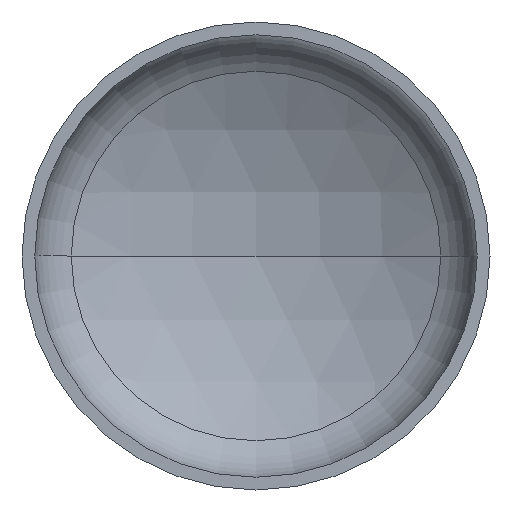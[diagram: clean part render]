
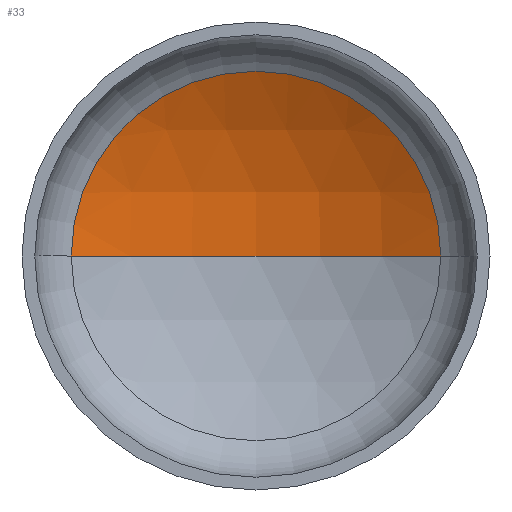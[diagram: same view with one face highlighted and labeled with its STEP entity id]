
A CAD part, front view. The second image highlights one B-rep face of the part: STEP entity #33.
In plain terms, the highlighted spherical face has radius 2880 mm.
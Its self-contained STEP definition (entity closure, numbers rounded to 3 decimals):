
#10 = EDGE_LOOP ( 'NONE', ( #117, #85, #74 ) ) ;
#15 = CARTESIAN_POINT ( 'NONE',  ( 0., 582.761, 0. ) ) ;
#33 = ADVANCED_FACE ( 'NONE', ( #123 ), #393, .F. ) ;
#74 = ORIENTED_EDGE ( 'NONE', *, *, #169, .T. ) ;
#85 = ORIENTED_EDGE ( 'NONE', *, *, #174, .T. ) ;
#87 = VERTEX_POINT ( 'NONE', #234 ) ;
#93 = VERTEX_POINT ( 'NONE', #242 ) ;
#105 = AXIS2_PLACEMENT_3D ( 'NONE', #213, #224, #223 ) ;
#111 = AXIS2_PLACEMENT_3D ( 'NONE', #260, #258, #278 ) ;
#114 = AXIS2_PLACEMENT_3D ( 'NONE', #15, #295, #130 ) ;
#117 = ORIENTED_EDGE ( 'NONE', *, *, #177, .F. ) ;
#123 = FACE_OUTER_BOUND ( 'NONE', #10, .T. ) ;
#130 = DIRECTION ( 'NONE',  ( 1., 0., 0. ) ) ;
#142 = AXIS2_PLACEMENT_3D ( 'NONE', #287, #281, #263 ) ;
#157 = VERTEX_POINT ( 'NONE', #312 ) ;
#169 = EDGE_CURVE ( 'NONE', #157, #87, #205, .T. ) ;
#174 = EDGE_CURVE ( 'NONE', #93, #157, #196, .T. ) ;
#177 = EDGE_CURVE ( 'NONE', #93, #87, #320, .T. ) ;
#196 = CIRCLE ( 'NONE', #105, 2880. ) ;
#205 = CIRCLE ( 'NONE', #114, 1420.8 ) ;
#213 = CARTESIAN_POINT ( 'NONE',  ( 0., -1922.379, 0. ) ) ;
#223 = DIRECTION ( 'NONE',  ( -1., 0., 0. ) ) ;
#224 = DIRECTION ( 'NONE',  ( 0., 0., -1. ) ) ;
#234 = CARTESIAN_POINT ( 'NONE',  ( -1420.8, 582.761, 0. ) ) ;
#242 = CARTESIAN_POINT ( 'NONE',  ( 0., 957.621, 0. ) ) ;
#258 = DIRECTION ( 'NONE',  ( 0., 0., 1. ) ) ;
#260 = CARTESIAN_POINT ( 'NONE',  ( 0., -1922.379, 0. ) ) ;
#263 = DIRECTION ( 'NONE',  ( -1., 0., 0. ) ) ;
#278 = DIRECTION ( 'NONE',  ( 1., 0., 0. ) ) ;
#281 = DIRECTION ( 'NONE',  ( 0., 0., -1. ) ) ;
#287 = CARTESIAN_POINT ( 'NONE',  ( 0., -1922.379, 0. ) ) ;
#295 = DIRECTION ( 'NONE',  ( 0., -1., 0. ) ) ;
#312 = CARTESIAN_POINT ( 'NONE',  ( 1420.8, 582.761, 0. ) ) ;
#320 = CIRCLE ( 'NONE', #111, 2880. ) ;
#393 = SPHERICAL_SURFACE ( 'NONE', #142, 2880. ) ;
